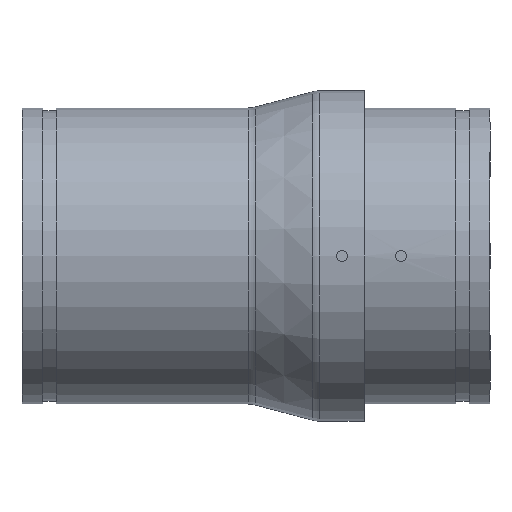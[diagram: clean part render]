
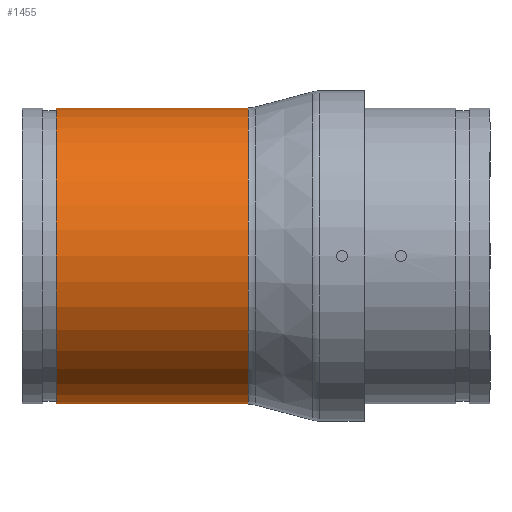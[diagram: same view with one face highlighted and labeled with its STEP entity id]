
A CAD part, front view. The second image highlights one B-rep face of the part: STEP entity #1455.
In plain terms, the highlighted cylindrical face has radius 136.525 mm (diameter 273.05 mm), a full revolution.
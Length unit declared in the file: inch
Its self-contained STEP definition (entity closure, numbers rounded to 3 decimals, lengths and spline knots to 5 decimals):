
#104=CIRCLE('',#1595,5.375);
#105=CIRCLE('',#1597,5.375);
#106=CIRCLE('',#1599,5.375);
#107=CIRCLE('',#1601,5.375);
#108=CIRCLE('',#1602,5.375);
#109=CIRCLE('',#1603,5.375);
#186=FACE_OUTER_BOUND('',#263,.T.);
#263=EDGE_LOOP('',(#1126,#1127,#1128,#1129,#1130,#1131,#1132,#1133,#1134,
#1135,#1136,#1137,#1138,#1139,#1140,#1141,#1142,#1143,#1144,#1145,#1146));
#316=ELLIPSE('',#1572,5.45792,5.375);
#317=ELLIPSE('',#1574,5.45792,5.375);
#318=ELLIPSE('',#1581,5.45792,5.375);
#319=ELLIPSE('',#1583,5.45792,5.375);
#320=ELLIPSE('',#1596,24.39142,5.375);
#321=ELLIPSE('',#1598,5.71996,5.375);
#322=ELLIPSE('',#1600,24.39142,5.375);
#392=LINE('',#2342,#513);
#401=LINE('',#2360,#522);
#415=LINE('',#2391,#536);
#419=LINE('',#2399,#540);
#421=LINE('',#2403,#542);
#427=LINE('',#2426,#548);
#428=LINE('',#2433,#549);
#513=VECTOR('',#1862,0.3937);
#522=VECTOR('',#1877,0.3937);
#536=VECTOR('',#1907,0.3937);
#540=VECTOR('',#1915,0.3937);
#542=VECTOR('',#1919,0.3937);
#548=VECTOR('',#1943,0.3937);
#549=VECTOR('',#1950,5.375);
#634=VERTEX_POINT('',#2323);
#636=VERTEX_POINT('',#2326);
#638=VERTEX_POINT('',#2332);
#639=VERTEX_POINT('',#2333);
#642=VERTEX_POINT('',#2341);
#648=VERTEX_POINT('',#2359);
#651=VERTEX_POINT('',#2369);
#653=VERTEX_POINT('',#2375);
#657=VERTEX_POINT('',#2389);
#659=VERTEX_POINT('',#2398);
#660=VERTEX_POINT('',#2402);
#665=VERTEX_POINT('',#2418);
#666=VERTEX_POINT('',#2419);
#667=VERTEX_POINT('',#2421);
#668=VERTEX_POINT('',#2425);
#669=VERTEX_POINT('',#2427);
#670=VERTEX_POINT('',#2429);
#671=VERTEX_POINT('',#2432);
#672=VERTEX_POINT('',#2434);
#797=EDGE_CURVE('',#636,#634,#316,.T.);
#800=EDGE_CURVE('',#638,#639,#317,.T.);
#804=EDGE_CURVE('',#642,#636,#392,.T.);
#813=EDGE_CURVE('',#639,#648,#401,.T.);
#818=EDGE_CURVE('',#651,#642,#318,.T.);
#821=EDGE_CURVE('',#648,#653,#319,.T.);
#829=EDGE_CURVE('',#653,#657,#415,.T.);
#833=EDGE_CURVE('',#659,#638,#419,.T.);
#835=EDGE_CURVE('',#660,#651,#421,.T.);
#843=EDGE_CURVE('',#665,#666,#104,.T.);
#844=EDGE_CURVE('',#667,#665,#320,.T.);
#845=EDGE_CURVE('',#667,#659,#105,.T.);
#846=EDGE_CURVE('',#657,#660,#321,.T.);
#847=EDGE_CURVE('',#634,#668,#427,.T.);
#848=EDGE_CURVE('',#668,#669,#106,.T.);
#849=EDGE_CURVE('',#670,#669,#322,.T.);
#850=EDGE_CURVE('',#666,#670,#107,.T.);
#851=EDGE_CURVE('',#666,#671,#428,.T.);
#852=EDGE_CURVE('',#671,#672,#108,.T.);
#853=EDGE_CURVE('',#672,#671,#109,.T.);
#1126=ORIENTED_EDGE('',*,*,#843,.F.);
#1127=ORIENTED_EDGE('',*,*,#844,.F.);
#1128=ORIENTED_EDGE('',*,*,#845,.T.);
#1129=ORIENTED_EDGE('',*,*,#833,.T.);
#1130=ORIENTED_EDGE('',*,*,#800,.T.);
#1131=ORIENTED_EDGE('',*,*,#813,.T.);
#1132=ORIENTED_EDGE('',*,*,#821,.T.);
#1133=ORIENTED_EDGE('',*,*,#829,.T.);
#1134=ORIENTED_EDGE('',*,*,#846,.T.);
#1135=ORIENTED_EDGE('',*,*,#835,.T.);
#1136=ORIENTED_EDGE('',*,*,#818,.T.);
#1137=ORIENTED_EDGE('',*,*,#804,.T.);
#1138=ORIENTED_EDGE('',*,*,#797,.T.);
#1139=ORIENTED_EDGE('',*,*,#847,.T.);
#1140=ORIENTED_EDGE('',*,*,#848,.T.);
#1141=ORIENTED_EDGE('',*,*,#849,.F.);
#1142=ORIENTED_EDGE('',*,*,#850,.F.);
#1143=ORIENTED_EDGE('',*,*,#851,.T.);
#1144=ORIENTED_EDGE('',*,*,#852,.T.);
#1145=ORIENTED_EDGE('',*,*,#853,.T.);
#1146=ORIENTED_EDGE('',*,*,#851,.F.);
#1320=CYLINDRICAL_SURFACE('',#1594,5.375);
#1455=ADVANCED_FACE('',(#186),#1320,.T.);
#1572=AXIS2_PLACEMENT_3D('',#2327,#1849,#1850);
#1574=AXIS2_PLACEMENT_3D('',#2334,#1855,#1856);
#1581=AXIS2_PLACEMENT_3D('',#2370,#1886,#1887);
#1583=AXIS2_PLACEMENT_3D('',#2376,#1892,#1893);
#1594=AXIS2_PLACEMENT_3D('',#2417,#1933,#1934);
#1595=AXIS2_PLACEMENT_3D('',#2420,#1935,#1936);
#1596=AXIS2_PLACEMENT_3D('',#2422,#1937,#1938);
#1597=AXIS2_PLACEMENT_3D('',#2423,#1939,#1940);
#1598=AXIS2_PLACEMENT_3D('',#2424,#1941,#1942);
#1599=AXIS2_PLACEMENT_3D('',#2428,#1944,#1945);
#1600=AXIS2_PLACEMENT_3D('',#2430,#1946,#1947);
#1601=AXIS2_PLACEMENT_3D('',#2431,#1948,#1949);
#1602=AXIS2_PLACEMENT_3D('',#2435,#1951,#1952);
#1603=AXIS2_PLACEMENT_3D('',#2436,#1953,#1954);
#1849=DIRECTION('center_axis',(0.985,0.174,0.));
#1850=DIRECTION('ref_axis',(-0.174,0.985,0.));
#1855=DIRECTION('center_axis',(0.985,0.174,0.));
#1856=DIRECTION('ref_axis',(-0.174,0.985,0.));
#1862=DIRECTION('',(1.,0.,0.));
#1877=DIRECTION('',(-1.,0.,0.));
#1886=DIRECTION('center_axis',(-0.985,0.174,0.));
#1887=DIRECTION('ref_axis',(0.174,0.985,0.));
#1892=DIRECTION('center_axis',(-0.985,0.174,0.));
#1893=DIRECTION('ref_axis',(0.174,0.985,0.));
#1907=DIRECTION('',(-1.,0.,0.));
#1915=DIRECTION('',(-1.,0.,0.));
#1919=DIRECTION('',(1.,0.,0.));
#1933=DIRECTION('center_axis',(1.,0.,0.));
#1934=DIRECTION('ref_axis',(0.,1.,0.));
#1935=DIRECTION('center_axis',(1.,0.,0.));
#1936=DIRECTION('ref_axis',(0.,-1.,0.));
#1937=DIRECTION('center_axis',(0.22,0.,-0.975));
#1938=DIRECTION('ref_axis',(0.975,0.,0.22));
#1939=DIRECTION('center_axis',(-1.,0.,0.));
#1940=DIRECTION('ref_axis',(0.,1.,0.));
#1941=DIRECTION('center_axis',(-0.94,0.342,0.));
#1942=DIRECTION('ref_axis',(0.342,0.94,0.));
#1943=DIRECTION('',(1.,0.,0.));
#1944=DIRECTION('center_axis',(-1.,0.,0.));
#1945=DIRECTION('ref_axis',(0.,1.,0.));
#1946=DIRECTION('center_axis',(0.22,0.,
0.975));
#1947=DIRECTION('ref_axis',(0.975,0.,-0.22));
#1948=DIRECTION('center_axis',(1.,0.,0.));
#1949=DIRECTION('ref_axis',(0.,-1.,0.));
#1950=DIRECTION('',(-1.,0.,0.));
#1951=DIRECTION('center_axis',(1.,0.,0.));
#1952=DIRECTION('ref_axis',(0.,0.,-1.));
#1953=DIRECTION('center_axis',(1.,0.,0.));
#1954=DIRECTION('ref_axis',(0.,0.,-1.));
#2323=CARTESIAN_POINT('',(4.04312,5.32057,-0.76299));
#2326=CARTESIAN_POINT('',(4.213,4.35719,-3.14731));
#2327=CARTESIAN_POINT('Origin',(4.98129,0.,0.));
#2332=CARTESIAN_POINT('',(4.04312,5.32057,0.76299));
#2333=CARTESIAN_POINT('',(4.213,4.35719,3.14731));
#2334=CARTESIAN_POINT('Origin',(4.98129,0.,0.));
#2341=CARTESIAN_POINT('',(2.87621,4.35719,-3.14731));
#2342=CARTESIAN_POINT('',(8.5,4.35719,-3.14731));
#2359=CARTESIAN_POINT('',(2.87621,4.35719,3.14731));
#2360=CARTESIAN_POINT('',(8.5,4.35719,3.14731));
#2369=CARTESIAN_POINT('',(3.04608,5.32057,-0.76299));
#2370=CARTESIAN_POINT('Origin',(2.10792,0.,0.));
#2375=CARTESIAN_POINT('',(3.04608,5.32057,0.76299));
#2376=CARTESIAN_POINT('Origin',(2.10792,0.,0.));
#2389=CARTESIAN_POINT('',(1.72648,5.32057,0.76299));
#2391=CARTESIAN_POINT('',(8.5,5.32057,0.76299));
#2398=CARTESIAN_POINT('',(5.18,5.32057,0.76299));
#2399=CARTESIAN_POINT('',(8.5,5.32057,0.76299));
#2402=CARTESIAN_POINT('',(1.72648,5.32057,-0.76299));
#2403=CARTESIAN_POINT('',(8.5,5.32057,-0.76299));
#2417=CARTESIAN_POINT('Origin',(8.5,0.,0.));
#2418=CARTESIAN_POINT('',(8.21582,0.,5.375));
#2419=CARTESIAN_POINT('',(8.21582,-5.375,0.));
#2420=CARTESIAN_POINT('Origin',(8.21582,0.,0.));
#2421=CARTESIAN_POINT('',(5.18,2.62725,4.68915));
#2422=CARTESIAN_POINT('Origin',(-15.57601,0.,
0.));
#2423=CARTESIAN_POINT('Origin',(5.18,0.,0.));
#2424=CARTESIAN_POINT('Origin',(-0.21005,0.,
0.));
#2425=CARTESIAN_POINT('',(5.18,5.32057,-0.76299));
#2426=CARTESIAN_POINT('',(8.5,5.32057,-0.76299));
#2427=CARTESIAN_POINT('',(5.18,2.62725,-4.68915));
#2428=CARTESIAN_POINT('Origin',(5.18,0.,0.));
#2429=CARTESIAN_POINT('',(8.21582,0.,-5.375));
#2430=CARTESIAN_POINT('Origin',(-15.57601,0.,
0.));
#2431=CARTESIAN_POINT('Origin',(8.21582,0.,0.));
#2432=CARTESIAN_POINT('',(1.25,-5.375,0.));
#2433=CARTESIAN_POINT('',(8.5,-5.375,0.));
#2434=CARTESIAN_POINT('',(1.25,5.375,0.));
#2435=CARTESIAN_POINT('Origin',(1.25,0.,0.));
#2436=CARTESIAN_POINT('Origin',(1.25,0.,0.));
